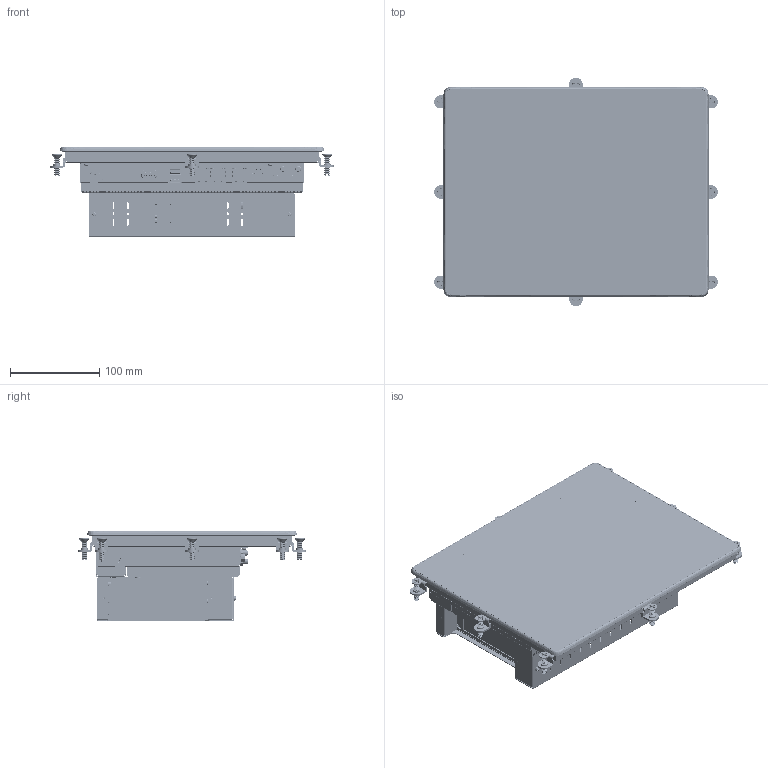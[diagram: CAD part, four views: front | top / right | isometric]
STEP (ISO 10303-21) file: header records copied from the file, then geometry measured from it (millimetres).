
FILE_DESCRIPTION((''),'2;1');
FILE_NAME('NP4C-121-Z','2026-06-02T10:14:20',('gijyu181'),(''),'CREO PARAMETRIC BY PTC INC, 2018050','CREO PARAMETRIC BY PTC INC, 2018050','');
FILE_SCHEMA(('CONFIG_CONTROL_DESIGN','SHAPE_APPEARANCE_LAYERS_GROUPS'));
Products named in the file (1): NP4C-121-Z
Bounding box: 317.6 x 256.1 x 100.5 mm (x, y, z)
Volume: 1773068 mm3; surface area: 1011118.1 mm2
Topology: 32 solids, 144 shells, 32611 faces, 92350 edges, 60837 vertices
Faces by surface type: plane 22122, cylinder 7608, extrusion 1414, cone 635, bspline 389, torus 264, sphere 163, revolution 16
Entity records: 1290770 total; most frequent: CARTESIAN_POINT 277952, ORIENTED_EDGE 183631, DIRECTION 165162, EDGE_CURVE 92262, VECTOR 71292, LINE 69878, VERTEX_POINT 60838, AXIS2_PLACEMENT_3D 46927
